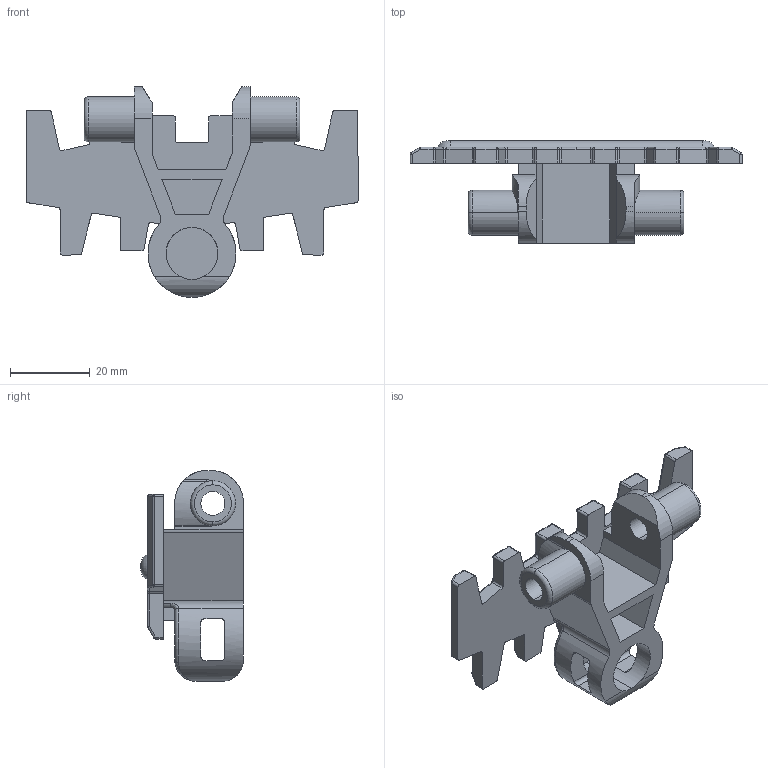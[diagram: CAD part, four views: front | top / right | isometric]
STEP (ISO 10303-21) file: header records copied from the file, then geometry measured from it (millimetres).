
FILE_DESCRIPTION (( 'STEP AP214' ), '1' );
FILE_NAME ('FMFT 5B.step', '2017-04-04T13:34:47', ( '' ), ( '' ), 'SwSTEP 2.0', 'SolidWorks 2015', '' );
FILE_SCHEMA (( 'AUTOMOTIVE_DESIGN' ));
Length unit declared in the file: millimetre
Products named in the file (1): FMFT 5B
Bounding box: 83 x 25.7 x 52.7 mm (x, y, z)
Volume: 19555.6 mm3; surface area: 12625 mm2
Topology: 1 solids, 1 shells, 331 faces, 828 edges, 472 vertices
Faces by surface type: cylinder 157, plane 94, sphere 38, torus 32, bspline 10
Entity records: 13775 total; most frequent: CARTESIAN_POINT 2352, DIRECTION 1733, ORIENTED_EDGE 1596, EDGE_CURVE 798, AXIS2_PLACEMENT_3D 663, VERTEX_POINT 472, LINE 407, VECTOR 407
